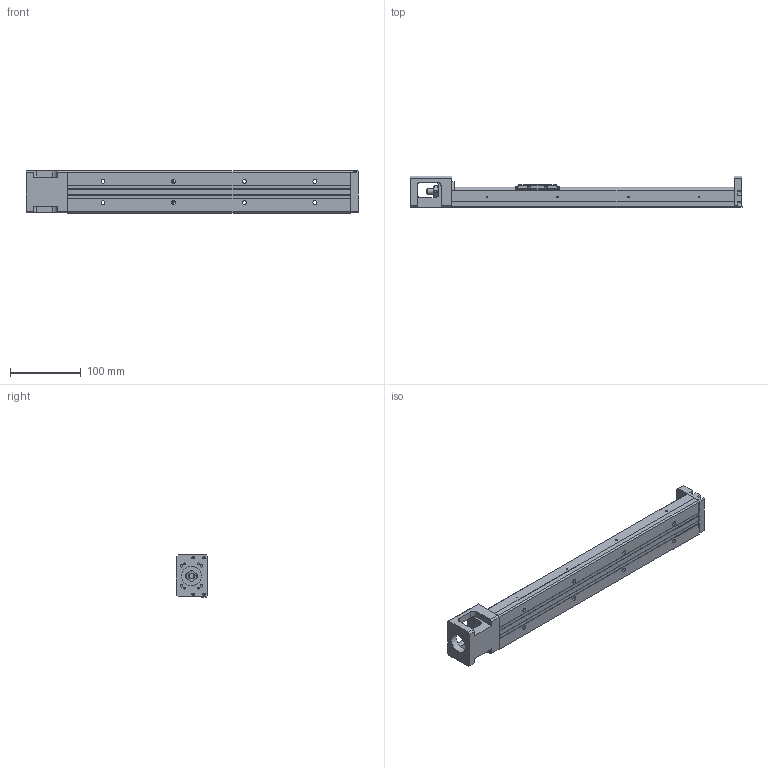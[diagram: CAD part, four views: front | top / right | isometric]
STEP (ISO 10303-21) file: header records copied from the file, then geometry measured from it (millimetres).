
FILE_DESCRIPTION(/* description */ (''),/* implementation_level */ '2;1');
FILE_NAME(/* name */ 'KP33S-400-D.stp',/* time_stamp */ '2020-06-04T17:56:31+08:00',/* author */ (''),/* organization */ (''),/* preprocessor_version */ 'ST-DEVELOPER v14',/* originating_system */ 'SIEMENS PLM Software NX 8.0',/* authorisation */ '');
FILE_SCHEMA (('AUTOMOTIVE_DESIGN { 1 0 10303 214 3 1 1 1 }'));
Length unit declared in the file: millimetre
Products named in the file (1): model1
Bounding box: 470 x 44.45 x 60 mm (x, y, z)
Volume: 511397.1 mm3; surface area: 145535 mm2
Topology: 5 solids, 14 shells, 634 faces, 1609 edges, 1058 vertices
Faces by surface type: plane 369, cylinder 180, bspline 31, cone 22, extrusion 21, torus 9, revolution 2
Full cylindrical faces by diameter (mm): 1.6 x4, 1.65 x4, 2.15 x4, 2.42 x4, 2.45 x4, 2.5 x12, 3.2 x4, 3.3 x4, 3.4 x4, 3.5 x10, 3.969 x1, 4 x4, 4.001 x1, 4.135 x2, 5.5 x8, 6 x4, 7.6 x1, 8 x5, 9.5 x8, 10.72 x3, 11.8 x2, 12 x6, 12.8 x1, 13 x2, 14 x1, 17.38 x3, 21.5 x1, 22 x2, 28 x1
Entity records: 33848 total; most frequent: CARTESIAN_POINT 16162, DIRECTION 2864, ORIENTED_EDGE 2794, EDGE_CURVE 1397, AXIS2_PLACEMENT_3D 1013, VERTEX_POINT 989, EDGE_LOOP 894, VECTOR 836
